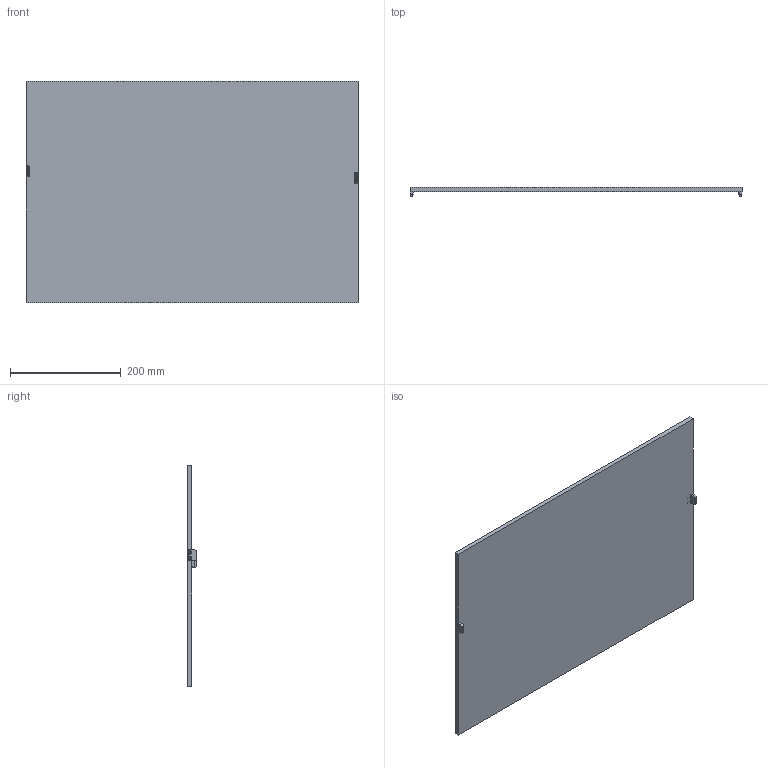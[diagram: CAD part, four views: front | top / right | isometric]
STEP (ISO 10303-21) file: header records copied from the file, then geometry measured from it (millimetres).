
FILE_DESCRIPTION (( 'STEP AP203' ), '1' );
FILE_NAME ('VT02503.STEP', '2016-07-12T08:02:38', ( '' ), ( '' ), 'SwSTEP 2.0', 'SolidWorks 2016', '' );
FILE_SCHEMA (( 'CONFIG_CONTROL_DESIGN' ));
Length unit declared in the file: millimetre
Products named in the file (1): VT02503
Bounding box: 599.75 x 17.5 x 399.75 mm (x, y, z)
Volume: 1919650.1 mm3; surface area: 498630.1 mm2
Topology: 7 solids, 7 shells, 194 faces, 452 edges, 272 vertices
Faces by surface type: plane 104, cylinder 50, cone 24, bspline 16
Entity records: 5865 total; most frequent: CARTESIAN_POINT 1463, DIRECTION 910, ORIENTED_EDGE 872, EDGE_CURVE 436, AXIS2_PLACEMENT_3D 319, VECTOR 272, VERTEX_POINT 272, LINE 272
